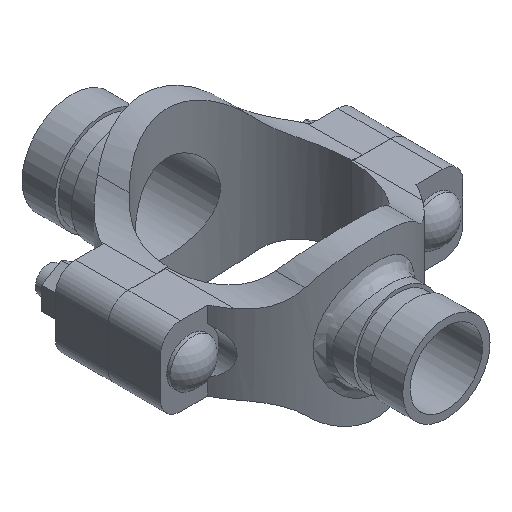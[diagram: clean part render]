
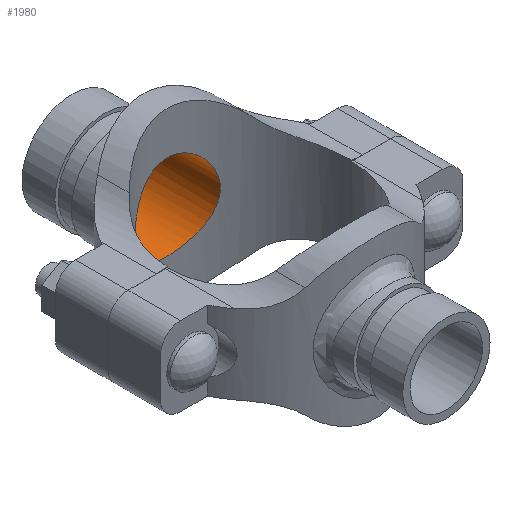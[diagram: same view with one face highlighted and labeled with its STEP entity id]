
A CAD part, isometric view. The second image highlights one B-rep face of the part: STEP entity #1980.
In plain terms, the highlighted cylindrical face has radius 20.637 mm (diameter 41.275 mm), a full revolution.
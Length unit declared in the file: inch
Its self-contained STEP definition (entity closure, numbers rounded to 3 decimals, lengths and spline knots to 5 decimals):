
#35=B_SPLINE_CURVE_WITH_KNOTS('',3,(#3398,#3399,#3400,#3401,#3402,#3403,
#3404,#3405,#3406,#3407,#3408,#3409,#3410,#3411,#3412,#3413,#3414,#3415,
#3416,#3417,#3418,#3419,#3420,#3421,#3422,#3423,#3424,#3425,#3426,#3427,
#3428,#3429,#3430,#3431,#3432,#3433,#3434,#3435,#3436,#3437,#3438,#3439,
#3440,#3441,#3442,#3443,#3444,#3445,#3446,#3447,#3448,#3449,#3450,#3451,
#3452,#3453,#3454,#3455,#3456,#3457,#3458,#3459,#3460,#3461,#3462,#3463),
 .UNSPECIFIED.,.T.,.F.,(4,2,2,2,2,2,2,2,2,2,2,2,2,2,2,2,2,2,2,2,2,2,2,2,
2,2,2,2,2,2,2,2,4),(0.,0.39579,0.79159,1.18738,
1.58317,1.97819,2.37322,2.76824,3.16326,
3.55828,3.9533,4.34832,4.74335,5.13914,
5.53493,5.93073,6.32652,6.72231,7.1181,
7.5139,7.90969,8.30471,8.69973,9.09476,
9.48978,9.8848,10.27982,10.67484,11.06986,
11.46566,11.86145,12.25724,12.65304),
 .UNSPECIFIED.);
#77=CYLINDRICAL_SURFACE('',#2186,0.8125);
#178=FACE_OUTER_BOUND('',#293,.T.);
#293=EDGE_LOOP('',(#1408,#1409,#1410,#1411));
#440=LINE('',#3397,#590);
#590=VECTOR('',#2532,0.8125);
#713=CIRCLE('',#2187,0.8125);
#846=VERTEX_POINT('',#3394);
#847=VERTEX_POINT('',#3396);
#1062=EDGE_CURVE('',#846,#846,#713,.T.);
#1063=EDGE_CURVE('',#846,#847,#440,.T.);
#1064=EDGE_CURVE('',#847,#847,#35,.T.);
#1408=ORIENTED_EDGE('',*,*,#1062,.F.);
#1409=ORIENTED_EDGE('',*,*,#1063,.T.);
#1410=ORIENTED_EDGE('',*,*,#1064,.F.);
#1411=ORIENTED_EDGE('',*,*,#1063,.F.);
#1980=ADVANCED_FACE('',(#178),#77,.F.);
#2186=AXIS2_PLACEMENT_3D('',#3393,#2528,#2529);
#2187=AXIS2_PLACEMENT_3D('',#3395,#2530,#2531);
#2528=DIRECTION('center_axis',(0.,-1.,0.));
#2529=DIRECTION('ref_axis',(-1.,0.,0.));
#2530=DIRECTION('center_axis',(0.,-1.,0.));
#2531=DIRECTION('ref_axis',(-1.,0.,0.));
#2532=DIRECTION('',(0.,-1.,0.));
#3393=CARTESIAN_POINT('Origin',(0.,3.56,0.));
#3394=CARTESIAN_POINT('',(0.8125,3.56,0.));
#3395=CARTESIAN_POINT('Origin',(0.,3.56,0.));
#3396=CARTESIAN_POINT('',(0.8125,1.54995,0.));
#3397=CARTESIAN_POINT('',(0.8125,3.56,0.));
#3398=CARTESIAN_POINT('Ctrl Pts',(0.8125,1.54995,0.));
#3399=CARTESIAN_POINT('Ctrl Pts',(0.8125,1.54995,-0.05194));
#3400=CARTESIAN_POINT('Ctrl Pts',(0.80744,1.55264,-0.10534));
#3401=CARTESIAN_POINT('Ctrl Pts',(0.78647,1.56336,-0.21099));
#3402=CARTESIAN_POINT('Ctrl Pts',(0.77057,1.57138,-0.26324));
#3403=CARTESIAN_POINT('Ctrl Pts',(0.7289,1.59114,-0.36302));
#3404=CARTESIAN_POINT('Ctrl Pts',(0.70309,1.60287,-0.41065));
#3405=CARTESIAN_POINT('Ctrl Pts',(0.64374,1.62762,-0.49857));
#3406=CARTESIAN_POINT('Ctrl Pts',(0.61019,1.64061,-0.53886));
#3407=CARTESIAN_POINT('Ctrl Pts',(0.53893,1.66538,-0.61012));
#3408=CARTESIAN_POINT('Ctrl Pts',(0.49867,1.67807,-0.64366));
#3409=CARTESIAN_POINT('Ctrl Pts',(0.41074,1.70173,-0.70304));
#3410=CARTESIAN_POINT('Ctrl Pts',(0.36306,1.71268,-0.72888));
#3411=CARTESIAN_POINT('Ctrl Pts',(0.26317,1.73084,-0.7706));
#3412=CARTESIAN_POINT('Ctrl Pts',(0.21087,1.73806,-0.78651));
#3413=CARTESIAN_POINT('Ctrl Pts',(0.10521,1.74764,-0.80746));
#3414=CARTESIAN_POINT('Ctrl Pts',(0.05184,1.75,-0.8125));
#3415=CARTESIAN_POINT('Ctrl Pts',(-0.05184,1.75,-0.8125));
#3416=CARTESIAN_POINT('Ctrl Pts',(-0.10521,1.74764,-0.80746));
#3417=CARTESIAN_POINT('Ctrl Pts',(-0.21087,1.73806,-0.78651));
#3418=CARTESIAN_POINT('Ctrl Pts',(-0.26317,1.73084,-0.7706));
#3419=CARTESIAN_POINT('Ctrl Pts',(-0.36306,1.71268,-0.72888));
#3420=CARTESIAN_POINT('Ctrl Pts',(-0.41074,1.70173,-0.70304));
#3421=CARTESIAN_POINT('Ctrl Pts',(-0.49867,1.67807,-0.64366));
#3422=CARTESIAN_POINT('Ctrl Pts',(-0.53893,1.66538,-0.61012));
#3423=CARTESIAN_POINT('Ctrl Pts',(-0.61019,1.64061,-0.53886));
#3424=CARTESIAN_POINT('Ctrl Pts',(-0.64374,1.62762,-0.49857));
#3425=CARTESIAN_POINT('Ctrl Pts',(-0.70309,1.60287,-0.41065));
#3426=CARTESIAN_POINT('Ctrl Pts',(-0.7289,1.59114,-0.36302));
#3427=CARTESIAN_POINT('Ctrl Pts',(-0.77057,1.57138,-0.26324));
#3428=CARTESIAN_POINT('Ctrl Pts',(-0.78647,1.56336,-0.21099));
#3429=CARTESIAN_POINT('Ctrl Pts',(-0.80744,1.55264,-0.10534));
#3430=CARTESIAN_POINT('Ctrl Pts',(-0.8125,1.54995,-0.05194));
#3431=CARTESIAN_POINT('Ctrl Pts',(-0.8125,1.54995,0.05194));
#3432=CARTESIAN_POINT('Ctrl Pts',(-0.80744,1.55264,0.10534));
#3433=CARTESIAN_POINT('Ctrl Pts',(-0.78647,1.56336,0.21099));
#3434=CARTESIAN_POINT('Ctrl Pts',(-0.77057,1.57138,0.26324));
#3435=CARTESIAN_POINT('Ctrl Pts',(-0.7289,1.59114,0.36302));
#3436=CARTESIAN_POINT('Ctrl Pts',(-0.70309,1.60287,0.41065));
#3437=CARTESIAN_POINT('Ctrl Pts',(-0.64374,1.62762,0.49857));
#3438=CARTESIAN_POINT('Ctrl Pts',(-0.61019,1.64061,0.53886));
#3439=CARTESIAN_POINT('Ctrl Pts',(-0.53893,1.66538,0.61012));
#3440=CARTESIAN_POINT('Ctrl Pts',(-0.49867,1.67807,0.64366));
#3441=CARTESIAN_POINT('Ctrl Pts',(-0.41074,1.70173,0.70304));
#3442=CARTESIAN_POINT('Ctrl Pts',(-0.36306,1.71268,0.72888));
#3443=CARTESIAN_POINT('Ctrl Pts',(-0.26317,1.73084,0.7706));
#3444=CARTESIAN_POINT('Ctrl Pts',(-0.21087,1.73806,0.78651));
#3445=CARTESIAN_POINT('Ctrl Pts',(-0.10521,1.74764,0.80746));
#3446=CARTESIAN_POINT('Ctrl Pts',(-0.05184,1.75,0.8125));
#3447=CARTESIAN_POINT('Ctrl Pts',(0.05184,1.75,0.8125));
#3448=CARTESIAN_POINT('Ctrl Pts',(0.10521,1.74764,0.80746));
#3449=CARTESIAN_POINT('Ctrl Pts',(0.21087,1.73806,0.78651));
#3450=CARTESIAN_POINT('Ctrl Pts',(0.26317,1.73084,0.7706));
#3451=CARTESIAN_POINT('Ctrl Pts',(0.36306,1.71268,0.72888));
#3452=CARTESIAN_POINT('Ctrl Pts',(0.41074,1.70173,0.70304));
#3453=CARTESIAN_POINT('Ctrl Pts',(0.49867,1.67807,0.64366));
#3454=CARTESIAN_POINT('Ctrl Pts',(0.53893,1.66538,0.61012));
#3455=CARTESIAN_POINT('Ctrl Pts',(0.61019,1.64061,0.53886));
#3456=CARTESIAN_POINT('Ctrl Pts',(0.64374,1.62762,0.49857));
#3457=CARTESIAN_POINT('Ctrl Pts',(0.70309,1.60287,0.41065));
#3458=CARTESIAN_POINT('Ctrl Pts',(0.7289,1.59114,0.36302));
#3459=CARTESIAN_POINT('Ctrl Pts',(0.77057,1.57138,0.26324));
#3460=CARTESIAN_POINT('Ctrl Pts',(0.78647,1.56336,0.21099));
#3461=CARTESIAN_POINT('Ctrl Pts',(0.80744,1.55264,0.10534));
#3462=CARTESIAN_POINT('Ctrl Pts',(0.8125,1.54995,0.05194));
#3463=CARTESIAN_POINT('Ctrl Pts',(0.8125,1.54995,0.));
